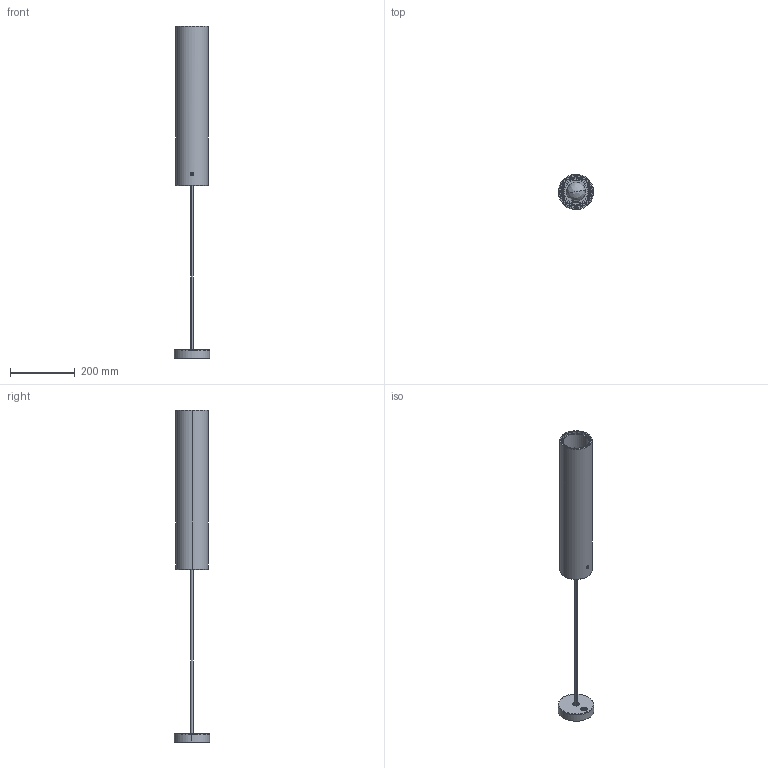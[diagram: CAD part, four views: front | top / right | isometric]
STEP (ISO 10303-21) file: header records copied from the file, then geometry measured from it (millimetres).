
FILE_DESCRIPTION (( 'STEP AP214' ), '1' );
FILE_NAME ('3D_ILIUM_HALO_MINI.STEP', '2018-02-23T15:11:39', ( 'Utente' ), ( '' ), 'SwSTEP 2.0', 'SolidWorks 2016', '' );
FILE_SCHEMA (( 'AUTOMOTIVE_DESIGN' ));
Length unit declared in the file: millimetre
Products named in the file (9): 052ILI701100-1^3D_ILIUM_HALO_MINI; 051ILI700200-1^3D_ILIUM_HALO_MINI; 061ILI700400-1^3D_ILIUM_HALO_MINI; CAVO-1^3D_ILIUM_HALO_MINI; ptl-camicia-filettata-E27-1^3D_ILIUM_HALO_MINI; Group1^3D_ILIUM_HALO_MINI; 3D_ILIUM_HALO_MINI; 052COM700110-2^3D_ILIUM_HALO_MINI; _U3-1^3D_ILIUM_HALO_MINI
Assembly tree (8 placements, depth 2):
  3D_ILIUM_HALO_MINI
    Group1^3D_ILIUM_HALO_MINI
    ptl-camicia-filettata-E27-1^3D_ILIUM_HALO_MINI
    CAVO-1^3D_ILIUM_HALO_MINI
    061ILI700400-1^3D_ILIUM_HALO_MINI
    051ILI700200-1^3D_ILIUM_HALO_MINI
    052ILI701100-1^3D_ILIUM_HALO_MINI
    _U3-1^3D_ILIUM_HALO_MINI
    052COM700110-2^3D_ILIUM_HALO_MINI
Bounding box: 109.97 x 109.97 x 1027.55 mm (x, y, z)
Volume: 1309473.3 mm3; surface area: 715124.4 mm2
Topology: 9 solids, 9 shells, 227 faces, 537 edges, 332 vertices
Faces by surface type: cylinder 116, plane 37, torus 32, cone 28, bspline 14
Entity records: 12077 total; most frequent: CARTESIAN_POINT 6297, DIRECTION 1200, ORIENTED_EDGE 1070, EDGE_CURVE 535, AXIS2_PLACEMENT_3D 518, VERTEX_POINT 332, CIRCLE 294, EDGE_LOOP 259
